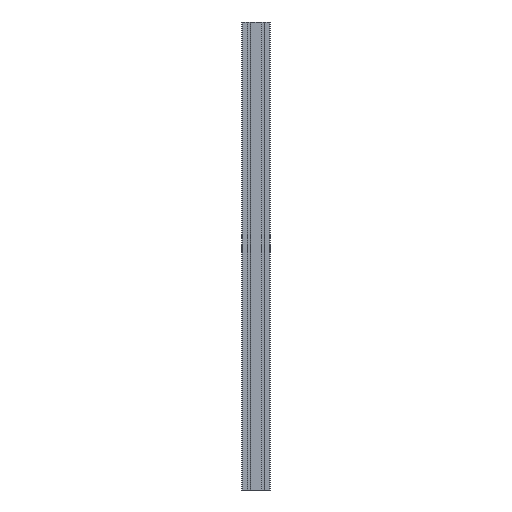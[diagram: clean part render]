
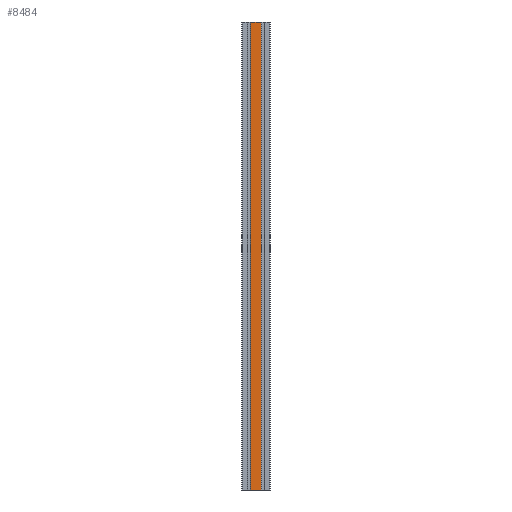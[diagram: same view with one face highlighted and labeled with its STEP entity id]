
A CAD part, front view. The second image highlights one B-rep face of the part: STEP entity #8484.
In plain terms, the highlighted planar face has unit normal (0, -1, 0).
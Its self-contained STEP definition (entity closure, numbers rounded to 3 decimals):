
#8426=CARTESIAN_POINT('',(281.35,140.0,1000.0));
#8427=VERTEX_POINT('',#8426);
#8435=CARTESIAN_POINT('',(281.35,140.0,0.0));
#8436=VERTEX_POINT('',#8435);
#8437=CARTESIAN_POINT('',(281.35,140.0,0.0));
#8438=DIRECTION('',(0.0,0.0,1.0));
#8439=VECTOR('',#8438,1000.0);
#8440=LINE('',#8437,#8439);
#8441=EDGE_CURVE('',#8436,#8427,#8440,.T.);
#8454=CARTESIAN_POINT('',(281.35,140.0,0.0));
#8455=DIRECTION('',(0.0,-1.0,0.0));
#8456=DIRECTION('',(0.0,0.0,-1.0));
#8457=AXIS2_PLACEMENT_3D('',#8454,#8455,#8456);
#8458=PLANE('',#8457);
#8459=CARTESIAN_POINT('',(258.65,140.0,1000.0));
#8460=VERTEX_POINT('',#8459);
#8461=CARTESIAN_POINT('',(281.35,140.0,1000.0));
#8462=DIRECTION('',(-1.0,0.0,0.0));
#8463=VECTOR('',#8462,22.7);
#8464=LINE('',#8461,#8463);
#8465=EDGE_CURVE('',#8427,#8460,#8464,.T.);
#8466=ORIENTED_EDGE('',*,*,#8465,.T.);
#8467=CARTESIAN_POINT('',(258.65,140.0,0.0));
#8468=VERTEX_POINT('',#8467);
#8469=CARTESIAN_POINT('',(258.65,140.0,0.0));
#8470=DIRECTION('',(0.0,0.0,1.0));
#8471=VECTOR('',#8470,1000.0);
#8472=LINE('',#8469,#8471);
#8473=EDGE_CURVE('',#8468,#8460,#8472,.T.);
#8474=ORIENTED_EDGE('',*,*,#8473,.F.);
#8475=CARTESIAN_POINT('',(258.65,140.0,0.0));
#8476=DIRECTION('',(1.0,0.0,0.0));
#8477=VECTOR('',#8476,22.7);
#8478=LINE('',#8475,#8477);
#8479=EDGE_CURVE('',#8468,#8436,#8478,.T.);
#8480=ORIENTED_EDGE('',*,*,#8479,.T.);
#8481=ORIENTED_EDGE('',*,*,#8441,.T.);
#8482=EDGE_LOOP('',(#8466,#8474,#8480,#8481));
#8483=FACE_OUTER_BOUND('',#8482,.T.);
#8484=ADVANCED_FACE('',(#8483),#8458,.T.);
